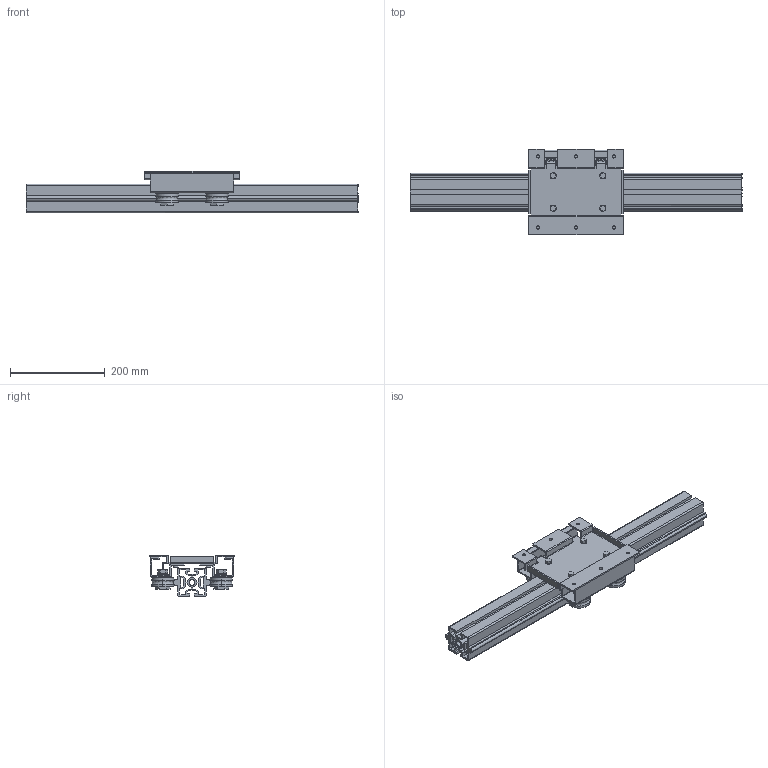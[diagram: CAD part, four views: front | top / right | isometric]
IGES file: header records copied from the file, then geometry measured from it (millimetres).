
Global section: file name: No Iges File Name specified; native system: AutoDesk Inventor R11.0; preprocessor: AutoDesk Inventor Iges Exporter R11.0; author: No Author specified; organization: No Organization specified; date: 20170802.092705; units: millimetre
Bounding box: 700 x 180 x 87 mm (x, y, z)
Surface area: 796515.5 mm2 (no closed solid volume)
Topology: 0 solids, 0 shells, 534 faces, 3252 edges, 3252 vertices
Faces by surface type: bspline 534
